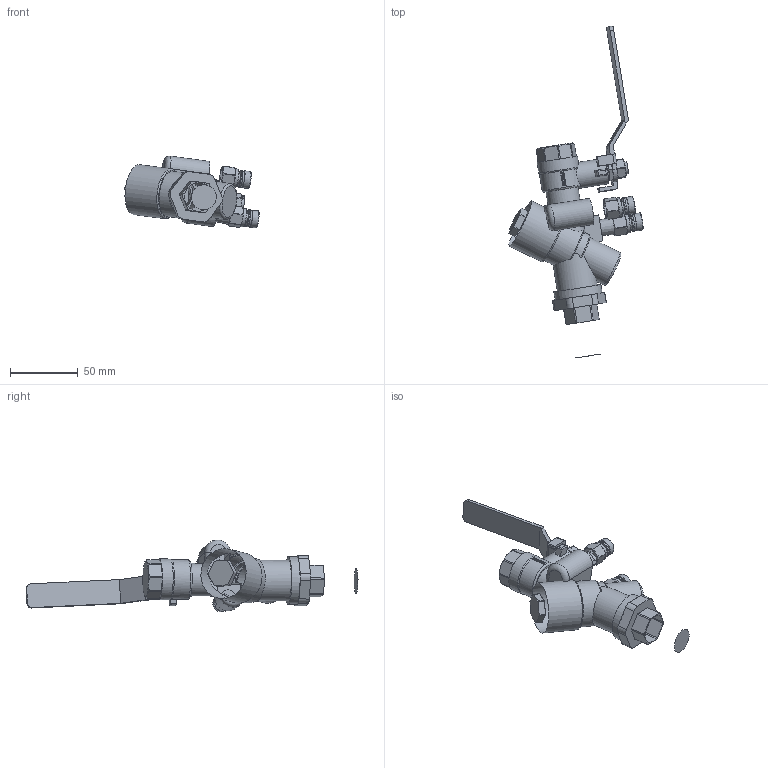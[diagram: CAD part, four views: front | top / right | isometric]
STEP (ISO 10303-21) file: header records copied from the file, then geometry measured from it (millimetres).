
FILE_DESCRIPTION(/* description */ (''),/* implementation_level */ '2;1');
FILE_NAME(/* name */ 'C:\Users\acc1\OneDrive\Desktop\STP and DWG files\AFLI\AFLI1_STEP.stp',/* time_stamp */ '2021-07-22T10:07:02-05:00',/* author */ ('acc1'),/* organization */ (''),/* preprocessor_version */ 'ST-DEVELOPER v18.1',/* originating_system */ 'Autodesk Inventor 2022',/* authorisation */ '');
FILE_SCHEMA (('AUTOMOTIVE_DESIGN { 1 0 10303 214 3 1 1 }'));
Length unit declared in the file: inch
Products named in the file (1): AFLI1_Assembly_Simplify_1
Bounding box: 98.79 x 244.31 x 52.94 mm (x, y, z)
Volume: 171662.2 mm3; surface area: 34919.1 mm2
Topology: 4 solids, 4 shells, 675 faces, 1817 edges, 1196 vertices
Faces by surface type: plane 319, bspline 209, cylinder 100, cone 31, torus 16
Full cylindrical faces by diameter (mm): 6.894 x2, 8.656 x1, 10.82 x1, 11.125 x2, 12.7 x4, 13.716 x2, 19.05 x1, 23.876 x1, 26.67 x1, 29.845 x1, 29.972 x1, 35.052 x1, 37.073 x1
Entity records: 24349 total; most frequent: CARTESIAN_POINT 8267, ORIENTED_EDGE 3634, DIRECTION 2442, EDGE_CURVE 1817, VERTEX_POINT 1196, LINE 958, VECTOR 958, AXIS2_PLACEMENT_3D 742
